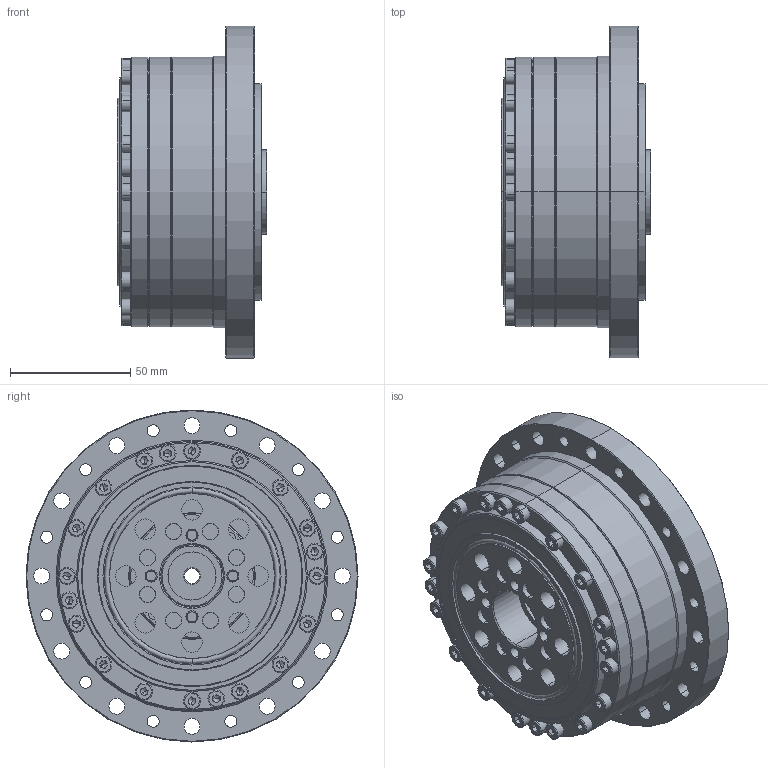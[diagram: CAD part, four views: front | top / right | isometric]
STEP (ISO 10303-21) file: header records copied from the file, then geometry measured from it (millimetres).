
FILE_DESCRIPTION (( 'STEP AP214' ), '1' );
FILE_NAME ('FCG-32-XXX-AJ.STEP', '2023-01-16T06:12:25', ( '微软用户' ), ( '微软中国' ), 'SwSTEP 2.0', 'SolidWorks 2016', '' );
FILE_SCHEMA (( 'AUTOMOTIVE_DESIGN' ));
Length unit declared in the file: millimetre
Products named in the file (1): FCG-32-XXX-AJ
Bounding box: 62 x 138 x 138 mm (x, y, z)
Volume: 423541.8 mm3; surface area: 216522.6 mm2
Topology: 73 solids, 73 shells, 1578 faces, 3710 edges, 2237 vertices
Faces by surface type: cylinder 576, plane 546, cone 260, torus 94, bspline 56, sphere 46
Entity records: 67633 total; most frequent: CARTESIAN_POINT 13074, DIRECTION 8231, ORIENTED_EDGE 7006, EDGE_CURVE 3503, AXIS2_PLACEMENT_3D 3317, VERTEX_POINT 2168, EDGE_LOOP 1929, CIRCLE 1794
